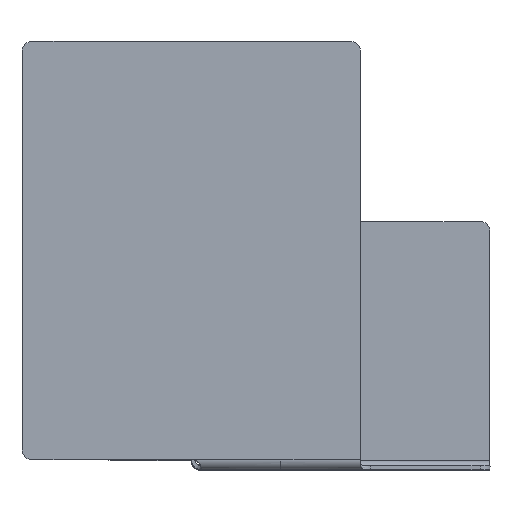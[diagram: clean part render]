
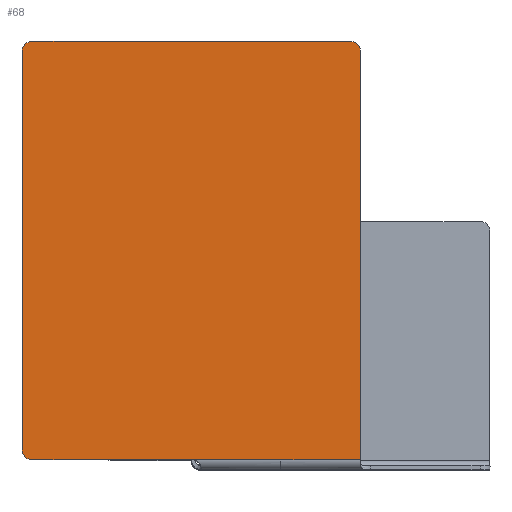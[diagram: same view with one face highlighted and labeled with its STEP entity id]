
A CAD part, top view. The second image highlights one B-rep face of the part: STEP entity #68.
In plain terms, the highlighted planar face has unit normal (0, 0, 1).
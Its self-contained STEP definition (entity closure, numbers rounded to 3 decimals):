
#68=ADVANCED_FACE('',(#141),#1129,.T.);
#141=FACE_OUTER_BOUND('',#214,.T.);
#214=EDGE_LOOP('',(#314,#315,#316,#317,#318,#319,#320,#321,#322,#323));
#314=ORIENTED_EDGE('',*,*,#663,.F.);
#315=ORIENTED_EDGE('',*,*,#651,.T.);
#316=ORIENTED_EDGE('',*,*,#668,.F.);
#317=ORIENTED_EDGE('',*,*,#652,.T.);
#318=ORIENTED_EDGE('',*,*,#671,.F.);
#319=ORIENTED_EDGE('',*,*,#683,.F.);
#320=ORIENTED_EDGE('',*,*,#655,.F.);
#321=ORIENTED_EDGE('',*,*,#653,.T.);
#322=ORIENTED_EDGE('',*,*,#661,.F.);
#323=ORIENTED_EDGE('',*,*,#654,.T.);
#651=EDGE_CURVE('',#1031,#1032,#843,.T.);
#652=EDGE_CURVE('',#1033,#1047,#844,.T.);
#653=EDGE_CURVE('',#1035,#1036,#845,.T.);
#654=EDGE_CURVE('',#1037,#1030,#846,.T.);
#655=EDGE_CURVE('',#1035,#1034,#847,.T.);
#661=EDGE_CURVE('',#1037,#1036,#853,.T.);
#663=EDGE_CURVE('',#1031,#1030,#855,.T.);
#668=EDGE_CURVE('',#1033,#1032,#860,.T.);
#671=EDGE_CURVE('',#1046,#1047,#863,.T.);
#683=EDGE_CURVE('',#1034,#1046,#875,.T.);
#843=B_SPLINE_CURVE_WITH_KNOTS('',3,(#3537,#3538,#3539,#3540),
 .UNSPECIFIED.,.F.,.F.,(4,4),(0.,15.708),.UNSPECIFIED.);
#844=B_SPLINE_CURVE_WITH_KNOTS('',1,(#3541,#3542),.UNSPECIFIED.,.F.,.F.,
(2,2),(170.,170.449),.UNSPECIFIED.);
#845=B_SPLINE_CURVE_WITH_KNOTS('',3,(#3543,#3544,#3545,#3546),
 .UNSPECIFIED.,.F.,.F.,(4,4),(0.,15.708),.UNSPECIFIED.);
#846=B_SPLINE_CURVE_WITH_KNOTS('',3,(#3547,#3548,#3549,#3550),
 .UNSPECIFIED.,.F.,.F.,(4,4),(0.,15.708),.UNSPECIFIED.);
#847=B_SPLINE_CURVE_WITH_KNOTS('',1,(#3551,#3552),.UNSPECIFIED.,.F.,.F.,
(2,2),(-410.,0.),.UNSPECIFIED.);
#853=B_SPLINE_CURVE_WITH_KNOTS('',1,(#3563,#3564),.UNSPECIFIED.,.F.,.F.,
(2,2),(-330.,-10.),.UNSPECIFIED.);
#855=B_SPLINE_CURVE_WITH_KNOTS('',1,(#3567,#3568),.UNSPECIFIED.,.F.,.F.,
(2,2),(-410.,-10.),.UNSPECIFIED.);
#860=B_SPLINE_CURVE_WITH_KNOTS('',1,(#3577,#3578),.UNSPECIFIED.,.F.,.F.,
(2,2),(-170.,-10.),.UNSPECIFIED.);
#863=B_SPLINE_CURVE_WITH_KNOTS('',1,(#3583,#3584),.UNSPECIFIED.,.F.,.F.,
(2,2),(-260.,-170.449),.UNSPECIFIED.);
#875=B_SPLINE_CURVE_WITH_KNOTS('',1,(#3645,#3646),.UNSPECIFIED.,.F.,.F.,
(2,2),(-0.783,79.217),.UNSPECIFIED.);
#1030=VERTEX_POINT('',#3433);
#1031=VERTEX_POINT('',#3434);
#1032=VERTEX_POINT('',#3435);
#1033=VERTEX_POINT('',#3436);
#1034=VERTEX_POINT('',#3437);
#1035=VERTEX_POINT('',#3438);
#1036=VERTEX_POINT('',#3439);
#1037=VERTEX_POINT('',#3440);
#1046=VERTEX_POINT('',#3449);
#1047=VERTEX_POINT('',#3450);
#1129=PLANE('',#1253);
#1253=AXIS2_PLACEMENT_3D('',#1402,#1311,$);
#1311=DIRECTION('',(0.,0.,1.));
#1402=CARTESIAN_POINT('',(0.,10.011,532.));
#3433=CARTESIAN_POINT('',(0.,420.011,532.));
#3434=CARTESIAN_POINT('',(0.,20.011,532.));
#3435=CARTESIAN_POINT('',(10.,10.011,532.));
#3436=CARTESIAN_POINT('',(170.,10.011,532.));
#3437=CARTESIAN_POINT('',(340.,10.011,532.));
#3438=CARTESIAN_POINT('',(340.,420.011,532.));
#3439=CARTESIAN_POINT('',(330.,430.011,532.));
#3440=CARTESIAN_POINT('',(10.,430.011,532.));
#3449=CARTESIAN_POINT('',(260.,10.011,532.));
#3450=CARTESIAN_POINT('',(170.449,10.011,532.));
#3537=CARTESIAN_POINT('',(0.,20.011,532.));
#3538=CARTESIAN_POINT('',(0.,14.489,532.));
#3539=CARTESIAN_POINT('',(4.477,10.011,532.));
#3540=CARTESIAN_POINT('',(10.,10.011,532.));
#3541=CARTESIAN_POINT('',(170.,10.011,532.));
#3542=CARTESIAN_POINT('',(170.449,10.011,532.));
#3543=CARTESIAN_POINT('',(340.,420.011,532.));
#3544=CARTESIAN_POINT('',(340.,425.534,532.));
#3545=CARTESIAN_POINT('',(335.523,430.011,532.));
#3546=CARTESIAN_POINT('',(330.,430.011,532.));
#3547=CARTESIAN_POINT('',(10.,430.011,532.));
#3548=CARTESIAN_POINT('',(4.477,430.011,532.));
#3549=CARTESIAN_POINT('',(0.,425.534,532.));
#3550=CARTESIAN_POINT('',(0.,420.011,532.));
#3551=CARTESIAN_POINT('',(340.,420.011,532.));
#3552=CARTESIAN_POINT('',(340.,10.011,532.));
#3563=CARTESIAN_POINT('',(10.,430.011,532.));
#3564=CARTESIAN_POINT('',(330.,430.011,532.));
#3567=CARTESIAN_POINT('',(0.,20.011,532.));
#3568=CARTESIAN_POINT('',(0.,420.011,532.));
#3577=CARTESIAN_POINT('',(170.,10.011,532.));
#3578=CARTESIAN_POINT('',(10.,10.011,532.));
#3583=CARTESIAN_POINT('',(260.,10.011,532.));
#3584=CARTESIAN_POINT('',(170.449,10.011,532.));
#3645=CARTESIAN_POINT('',(340.,10.011,532.));
#3646=CARTESIAN_POINT('',(260.,10.011,532.));
